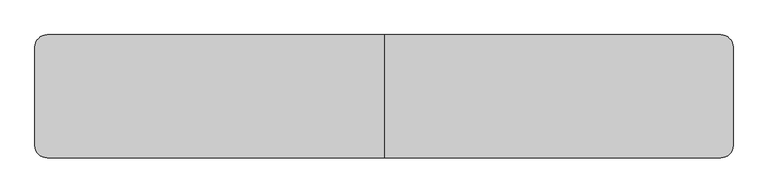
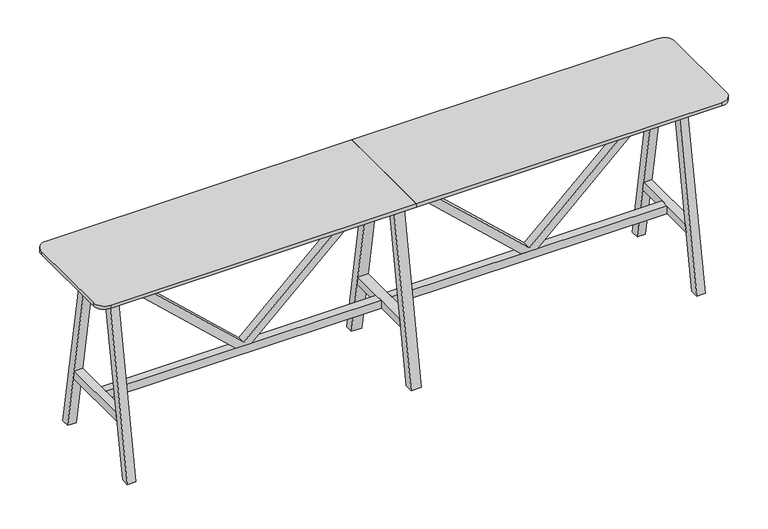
"""IFC4 building model written with IfcOpenShell, lengths in millimetres: furniture geometry, BDG_BossDesign_Tbls_AgentTables6Legs : AGE-HT-6L-3400-600-3D."""

from ifc_helpers import new_model, si_unit, point, frame, frame_2d, origin, place, context, project, spatial, polyline, circle_curve, trimmed, segment, composite_curve, outline, extrude, source, transform, mapped, element, save


def furniture_16feb259(model_context):
    return source(origin(), model_context, "Body", "SweptSolid", [
        extrude(outline(polyline([(345.0, 724.0823957), (345.0, 808.4176043), (992.0, 1505.0), (1032.0, 1505.0), (1032.0, 1485.0), (365.0, 766.25), (1032.0, 47.5), (1032.0, 27.5), (992.0, 27.5), (345.0, 724.0823957)])), frame((0.0, -22.5000305, 0.0), z_axis=(0.0, 1.0, 0.0), x_axis=(0.0, 0.0, 1.0)), (0.0, 0.0, 1.0), 45.000061),
        extrude(outline(polyline([(345.0, -724.0823957), (992.0, -27.5), (1032.0, -27.5), (1032.0, -47.5), (365.0, -766.25), (1032.0, -1485.0), (1032.0, -1505.0), (992.0, -1505.0), (345.0, -808.4176043), (345.0, -724.0823957)])), frame((0.0, -22.5000305, 0.0), z_axis=(0.0, 1.0, 0.0), x_axis=(0.0, 0.0, 1.0)), (0.0, 0.0, 1.0), 45.000061),
        extrude(outline(polyline([(300.0, 0.0), (254.9999949, 0.0), (85.5, 970.0), (130.5000051, 970.0), (300.0, 0.0)])), frame((-27.5, 0.0, 0.0), z_axis=(1.0, 0.0, 0.0), x_axis=(0.0, 1.0, 0.0)), (0.0, 0.0, 1.0), 55.0),
        extrude(outline(polyline([(-300.0, 0.0), (-130.5000051, 970.0), (-85.5, 970.0), (-254.9999949, 0.0), (-300.0, 0.0)])), frame((-27.5, 0.0, 0.0), z_axis=(1.0, 0.0, 0.0), x_axis=(0.0, 1.0, 0.0)), (0.0, 0.0, 1.0), 55.0),
        extrude(outline(polyline([(202.5773161, 300.0), (-202.5773161, 300.0), (-194.7139143, 345.0), (194.7139143, 345.0), (202.5773161, 300.0)])), frame((-27.5, 0.0, 0.0), z_axis=(1.0, 0.0, 0.0), x_axis=(0.0, 1.0, 0.0)), (0.0, 0.0, 1.0), 55.0),
        extrude(outline(composite_curve([segment(polyline([(0.0, 300.0), (0.0, -300.0), (-1640.0, -300.0)]), True, "CONTINUOUS"), segment(trimmed(circle_curve(frame_2d((-1640.0, -240.0)), 60.0), [point((-1640.0, -300.0))], [point((-1700.0, -240.0))], False, "CARTESIAN"), True, "CONTINUOUS"), segment(polyline([(-1700.0, -240.0), (-1700.0, 240.0)]), True, "CONTINUOUS"), segment(trimmed(circle_curve(frame_2d((-1640.0, 240.0)), 60.0), [point((-1700.0, 240.0))], [point((-1640.0, 300.0))], False, "CARTESIAN"), True, "CONTINUOUS"), segment(polyline([(-1640.0, 300.0), (0.0, 300.0)]), True, "CONTINUOUS")], self_intersect=False)), frame((0.0, 0.0, 1032.0), z_axis=(0.0, 0.0, 1.0), x_axis=(1.0, 0.0, 0.0)), (0.0, 0.0, 1.0), 18.0),
        extrude(outline(polyline([(-194.7139143, 345.0), (194.7139143, 345.0), (202.5773161, 300.0), (-202.5773161, 300.0), (-194.7139143, 345.0)])), frame((1505.0, 0.0, 0.0), z_axis=(1.0, 0.0, 0.0), x_axis=(0.0, 1.0, 0.0)), (0.0, 0.0, 1.0), 45.0),
        extrude(outline(polyline([(300.0, 0.0), (254.9999949, 0.0), (85.5, 970.0), (130.5000051, 970.0), (300.0, 0.0)])), frame((-1550.0, 0.0, 0.0), z_axis=(1.0, 0.0, 0.0), x_axis=(0.0, 1.0, 0.0)), (0.0, 0.0, 1.0), 45.0),
        extrude(outline(polyline([(-300.0, 0.0), (-130.5000051, 970.0), (-85.5, 970.0), (-254.9999949, 0.0), (-300.0, 0.0)])), frame((-1550.0, 0.0, 0.0), z_axis=(1.0, 0.0, 0.0), x_axis=(0.0, 1.0, 0.0)), (0.0, 0.0, 1.0), 45.0),
        extrude(outline(polyline([(-194.7139143, 345.0), (194.7139143, 345.0), (202.5773161, 300.0), (-202.5773161, 300.0), (-194.7139143, 345.0)])), frame((-1550.0, 0.0, 0.0), z_axis=(1.0, 0.0, 0.0), x_axis=(0.0, 1.0, 0.0)), (0.0, 0.0, 1.0), 45.0),
        extrude(outline(polyline([(-126.6006165, 944.973938), (-104.2770691, 1032.0), (-79.5, 1032.0), (-101.8235474, 944.973938), (-126.6006165, 944.973938)])), frame((-1505.0, 0.0, 0.0), z_axis=(1.0, 0.0, 0.0), x_axis=(0.0, 1.0, 0.0)), (0.0, 0.0, 1.0), 3010.0),
        extrude(outline(polyline([(126.6006165, 944.973938), (101.8235474, 944.973938), (79.5, 1032.0), (104.2770691, 1032.0), (126.6006165, 944.973938)])), frame((-1505.0, 0.0, 0.0), z_axis=(1.0, 0.0, 0.0), x_axis=(0.0, 1.0, 0.0)), (0.0, 0.0, 1.0), 3010.0),
        extrude(outline(polyline([(299.7999878, 0.0), (254.7999827, 0.0), (85.5, 970.0), (130.5000051, 970.0), (299.7999878, 0.0)])), frame((1505.0, 0.0, 0.0), z_axis=(1.0, 0.0, 0.0), x_axis=(0.0, 1.0, 0.0)), (0.0, 0.0, 1.0), 45.0),
        extrude(outline(polyline([(-299.7999878, 0.0), (-130.5000051, 970.0), (-85.5, 970.0), (-254.7999827, 0.0), (-299.7999878, 0.0)])), frame((1505.0, 0.0, 0.0), z_axis=(1.0, 0.0, 0.0), x_axis=(0.0, 1.0, 0.0)), (0.0, 0.0, 1.0), 45.0),
        extrude(outline(polyline([(-27.5, 22.5000305), (-27.5, -22.5000305), (-1505.0, -22.5000305), (-1505.0, 22.5000305), (-27.5, 22.5000305)])), frame((0.0, 0.0, 300.0), z_axis=(0.0, 0.0, 1.0), x_axis=(1.0, 0.0, 0.0)), (0.0, 0.0, 1.0), 45.0),
        extrude(outline(polyline([(27.5, -22.5000305), (27.5, 22.5000305), (1505.0, 22.5000305), (1505.0, -22.5000305), (27.5, -22.5000305)])), frame((0.0, 0.0, 300.0), z_axis=(0.0, 0.0, 1.0), x_axis=(1.0, 0.0, 0.0)), (0.0, 0.0, 1.0), 45.0),
        extrude(outline(composite_curve([segment(trimmed(circle_curve(frame_2d((1640.0, 240.0)), 60.0), [point((1640.0, 300.0))], [point((1700.0, 240.0))], False, "CARTESIAN"), True, "CONTINUOUS"), segment(polyline([(1700.0, 240.0), (1700.0, -240.0)]), True, "CONTINUOUS"), segment(trimmed(circle_curve(frame_2d((1640.0, -240.0)), 60.0), [point((1700.0, -240.0))], [point((1640.0, -300.0))], False, "CARTESIAN"), True, "CONTINUOUS"), segment(polyline([(1640.0, -300.0), (0.0, -300.0), (0.0, 300.0), (1640.0, 300.0)]), True, "CONTINUOUS")], self_intersect=False)), frame((0.0, 0.0, 1032.0), z_axis=(0.0, 0.0, 1.0), x_axis=(1.0, 0.0, 0.0)), (0.0, 0.0, 1.0), 18.0),
    ])


if __name__ == "__main__":
    model = new_model("IFC4")
    model_context = context("Model", 3, world=origin())
    ifc_project = project(units=[si_unit("LENGTHUNIT", "METRE", prefix="MILLI")], contexts=[model_context])
    site = spatial("IfcSite", under=ifc_project)
    building = spatial("IfcBuilding", under=site)
    placement = place(None, origin())
    furniture_shape = furniture_16feb259(model_context)
    element("IfcFurniture", 1, ObjectType="BDG_BossDesign_Tbls_AgentTables6Legs : AGE-HT-6L-3400-600-3D", at=placement, inside=building, context=model_context, shape_type="MappedRepresentation", body=[
        mapped(furniture_shape, transform((0.0, 0.0, 0.0), x_axis=(1.0, 0.0, 0.0), y_axis=(0.0, 1.0, 0.0), z_axis=(0.0, 0.0, 1.0))),
    ])
    save(model, "model.ifc")
